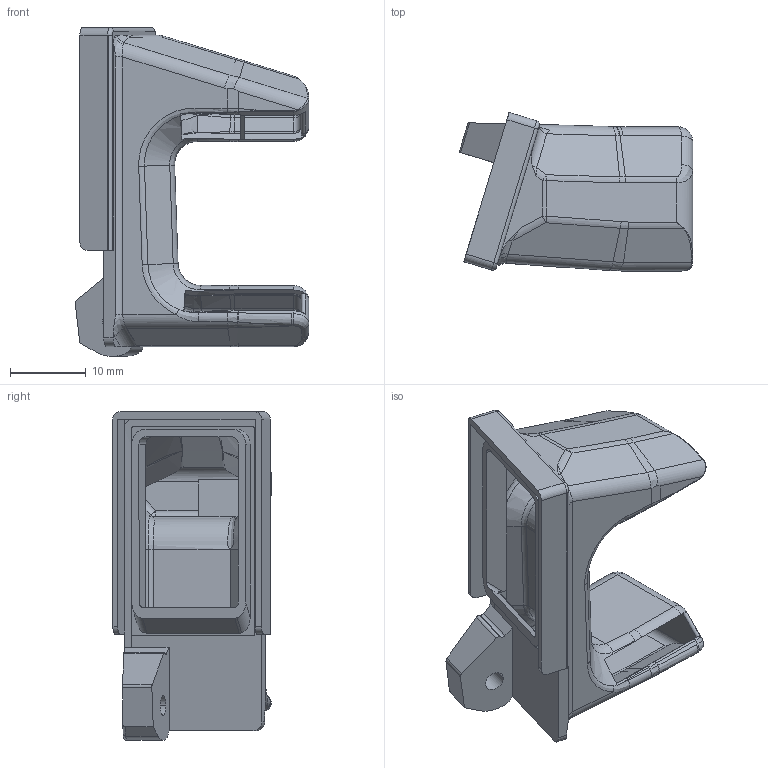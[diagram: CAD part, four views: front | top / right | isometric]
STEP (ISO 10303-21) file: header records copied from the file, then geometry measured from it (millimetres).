
FILE_DESCRIPTION (( 'STEP AP203' ), '1' );
FILE_NAME ('瑞耋0523.STEP', '2024-05-23T02:33:04', ( '' ), ( '' ), 'SwSTEP 2.0', 'SolidWorks 2022', '' );
FILE_SCHEMA (( 'CONFIG_CONTROL_DESIGN' ));
Length unit declared in the file: millimetre
Products named in the file (1): 瑞耋0523
Bounding box: 30.73 x 20.87 x 43.29 mm (x, y, z)
Volume: 3751.2 mm3; surface area: 7426.7 mm2
Topology: 3 solids, 3 shells, 459 faces, 1147 edges, 671 vertices
Faces by surface type: cylinder 163, plane 144, bspline 92, torus 25, sphere 21, cone 14
Entity records: 16801 total; most frequent: CARTESIAN_POINT 6873, ORIENTED_EDGE 2262, DIRECTION 1812, EDGE_CURVE 1131, VERTEX_POINT 671, AXIS2_PLACEMENT_3D 647, LINE 518, VECTOR 518
